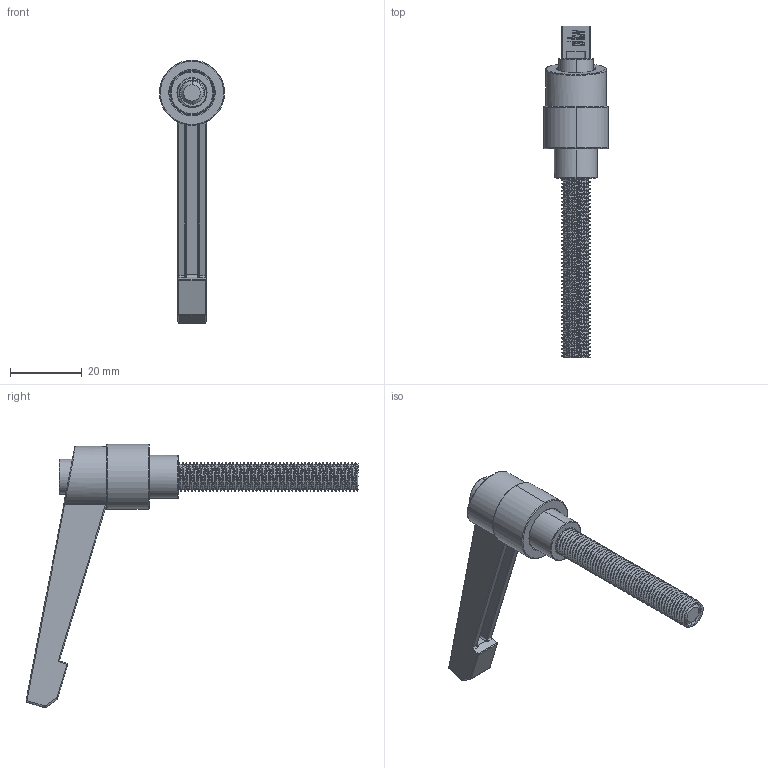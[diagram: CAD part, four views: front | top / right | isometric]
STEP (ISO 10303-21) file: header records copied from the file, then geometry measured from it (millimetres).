
FILE_DESCRIPTION (( 'STEP AP214' ), '1' );
FILE_NAME ('348.0306A.01.STEP', '2023-02-16T12:57:57', ( '' ), ( '' ), 'SwSTEP 2.0', 'SolidWorks 2020', '' );
FILE_SCHEMA (( 'AUTOMOTIVE_DESIGN' ));
Length unit declared in the file: millimetre
Products named in the file (5): 348.0306A.01-4; 348.0306A.01-3; 348.0306A.01; 348.0306A.01-2; 348.0306A.01-1
Assembly tree (4 placements, depth 2):
  348.0306A.01
    348.0306A.01-1
    348.0306A.01-2
    348.0306A.01-3
    348.0306A.01-4
Bounding box: 18.1 x 92.32 x 73.28 mm (x, y, z)
Volume: 10747.2 mm3; surface area: 8842.5 mm2
Topology: 15 solids, 15 shells, 619 faces, 1555 edges, 913 vertices
Faces by surface type: cylinder 229, bspline 164, plane 130, torus 60, sphere 31, cone 5
Entity records: 36622 total; most frequent: CARTESIAN_POINT 22614, ORIENTED_EDGE 2986, DIRECTION 2236, EDGE_CURVE 1493, VERTEX_POINT 911, AXIS2_PLACEMENT_3D 862, EDGE_LOOP 632, ADVANCED_FACE 619
